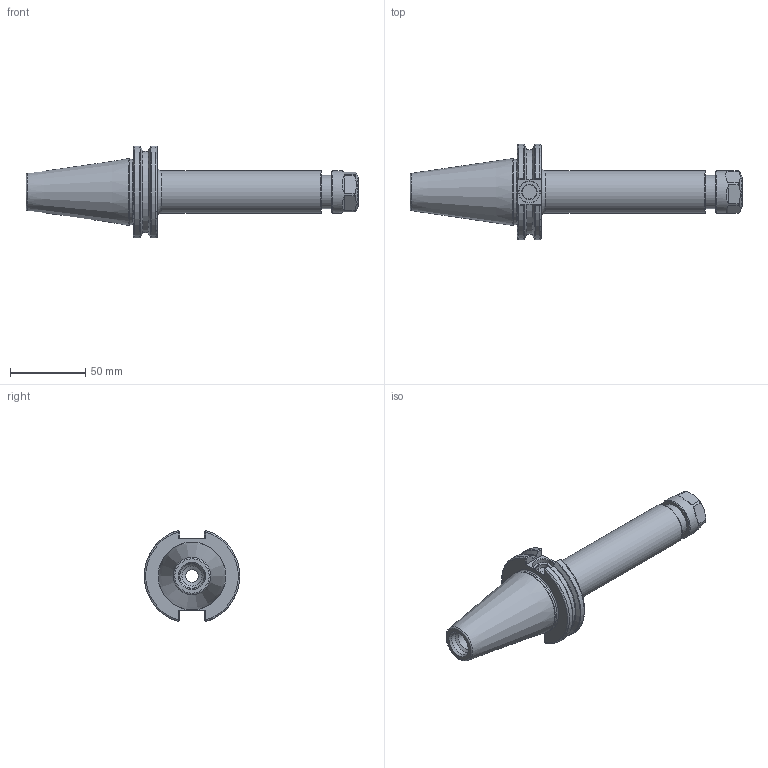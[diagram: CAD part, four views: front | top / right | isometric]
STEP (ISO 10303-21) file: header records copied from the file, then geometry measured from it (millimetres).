
FILE_DESCRIPTION(/* description */ (''),/* implementation_level */ '2;1');
FILE_NAME(/* name */ 'I:\2.客户确认模型及简图\2021.05.02---美国HAAS\CAT40-ER16-152.4.stp',/* time_stamp */ '2021-05-02T13:06:00+08:00',/* author */ ('Administrator'),/* organization */ (''),/* preprocessor_version */ 'ST-DEVELOPER v18.1',/* originating_system */ 'Autodesk Inventor 2021',/* authorisation */ '');
FILE_SCHEMA (('AUTOMOTIVE_DESIGN { 1 0 10303 214 3 1 1 }'));
Length unit declared in the file: millimetre
Products named in the file (3): CAT40-ER16-152.4示意图; CAT40-ER16-152.4; ER16A单偏心压帽
Assembly tree (2 placements, depth 2):
  CAT40-ER16-152.4示意图
    CAT40-ER16-152.4
    ER16A单偏心压帽
Bounding box: 220.65 x 63.27 x 60.92 mm (x, y, z)
Volume: 169088.1 mm3; surface area: 37535.6 mm2
Topology: 2 solids, 2 shells, 134 faces, 373 edges, 251 vertices
Faces by surface type: plane 55, torus 23, cylinder 21, cone 19, bspline 16
Full cylindrical faces by diameter (mm): 8.376 x1, 9.5 x1, 10.5 x1, 12.8 x1, 13.386 x1, 14 x1, 16.281 x1, 16.5 x1, 20.376 x1, 22 x1, 22.5 x1, 28 x2, 43.5 x1
Entity records: 5324 total; most frequent: CARTESIAN_POINT 1846, ORIENTED_EDGE 746, DIRECTION 689, EDGE_CURVE 373, AXIS2_PLACEMENT_3D 277, VERTEX_POINT 251, CIRCLE 147, EDGE_LOOP 146
